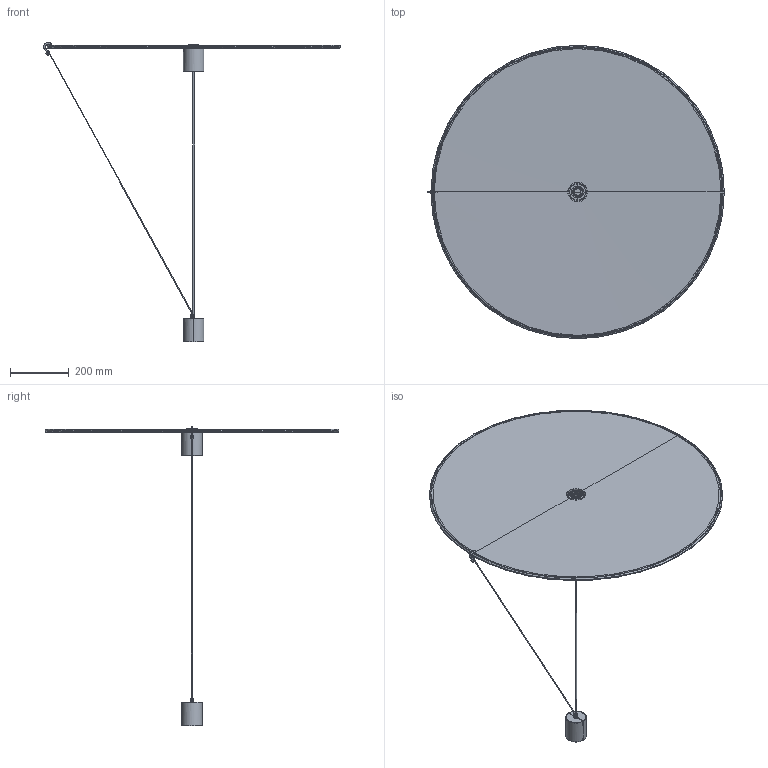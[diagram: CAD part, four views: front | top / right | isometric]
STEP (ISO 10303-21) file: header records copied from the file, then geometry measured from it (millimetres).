
FILE_DESCRIPTION(/* description */ (''),/* implementation_level */ '2;1');
FILE_NAME(/* name */ 'C:\Users\FrancoSartori\Documents\FARO\01_En Proceso\0000_2022\00_COSTAS\03_Publicación\68590-70.stp',/* time_stamp */ '2022-02-21T16:27:50+01:00',/* author */ ('FrancoSartori'),/* organization */ (''),/* preprocessor_version */ 'ST-DEVELOPER v18.1',/* originating_system */ 'AutoCAD Mechanical',/* authorisation */ '');
FILE_SCHEMA (('AUTOMOTIVE_DESIGN { 1 0 10303 214 3 1 1 }'));
Length unit declared in the file: millimetre
Products named in the file (13): Product; 68590-69_ 68590-70_CS - KOMBO ceiling support-583334-Export; 68590-69_ 68590-70_lamp_R - Lamp and shade-610174-Export; Regulator_dwg-609037-Export; Regulator_dwg_AVE_RENDER-609038-Export; Regulator_dwg_AVE_RENDER-V1-Export; Regulator_dwg_AVE_RENDER-V2-Export; Regulator_dwg_AVE_RENDER-V3-Export; Regulator_dwg_AVE_RENDER-V4-Export; Regulator_dwg_AVE_RENDER-V5-Export; Regulator_dwg_AVE_RENDER-V6-Export; Regulator_dwg_AVE_RENDER-V7-Export; Regulator_dwg_AVE_GLOBAL-609039-Export
Assembly tree (12 placements, depth 3):
  Product
    68590-69_ 68590-70_CS - KOMBO ceiling support-583334-Export
    68590-69_ 68590-70_lamp_R - Lamp and shade-610174-Export
    Regulator_dwg-609037-Export
      Regulator_dwg_AVE_RENDER-609038-Export
      Regulator_dwg_AVE_RENDER-V1-Export
      Regulator_dwg_AVE_RENDER-V2-Export
      Regulator_dwg_AVE_RENDER-V3-Export
      Regulator_dwg_AVE_RENDER-V4-Export
      Regulator_dwg_AVE_RENDER-V5-Export
      Regulator_dwg_AVE_RENDER-V6-Export
      Regulator_dwg_AVE_RENDER-V7-Export
      Regulator_dwg_AVE_GLOBAL-609039-Export
Bounding box: 1011.37 x 999.97 x 1020.75 mm (x, y, z)
Volume: 7448162.1 mm3; surface area: 1787212.4 mm2
Topology: 10 solids, 46 shells, 489 faces, 1724 edges, 1275 vertices
Faces by surface type: plane 389, cylinder 66, torus 26, cone 6, sphere 2
Entity records: 21064 total; most frequent: CARTESIAN_POINT 6738, DIRECTION 2763, ORIENTED_EDGE 2397, EDGE_CURVE 1724, LINE 1515, VECTOR 1515, VERTEX_POINT 1275, AXIS2_PLACEMENT_3D 624
